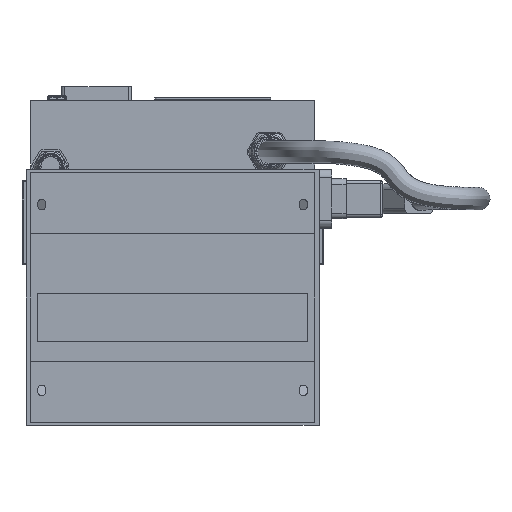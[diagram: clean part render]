
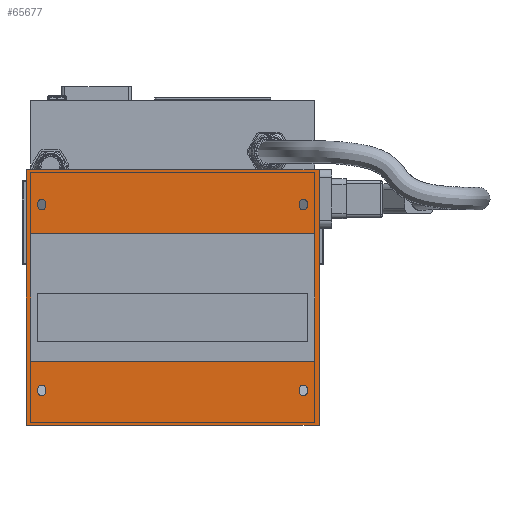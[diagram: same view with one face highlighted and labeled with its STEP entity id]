
A CAD part, front view. The second image highlights one B-rep face of the part: STEP entity #65677.
In plain terms, the highlighted planar face has unit normal (0, -1, 0).
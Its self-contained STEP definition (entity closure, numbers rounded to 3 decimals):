
#3708=FACE_BOUND('',#10157,.T.);
#3709=FACE_BOUND('',#10158,.T.);
#3710=FACE_BOUND('',#10159,.T.);
#3711=FACE_BOUND('',#10160,.T.);
#3712=FACE_BOUND('',#10161,.T.);
#4030=CIRCLE('',#69622,7.);
#4032=CIRCLE('',#69626,7.);
#4034=CIRCLE('',#69630,7.);
#4036=CIRCLE('',#69634,7.);
#4038=CIRCLE('',#69637,7.);
#4040=CIRCLE('',#69641,7.);
#4042=CIRCLE('',#69645,7.);
#4044=CIRCLE('',#69649,7.);
#6555=FACE_OUTER_BOUND('',#10156,.T.);
#10156=EDGE_LOOP('',(#44008,#44009,#44010,#44011));
#10157=EDGE_LOOP('',(#44012,#44013,#44014,#44015));
#10158=EDGE_LOOP('',(#44016,#44017,#44018,#44019));
#10159=EDGE_LOOP('',(#44020,#44021,#44022,#44023));
#10160=EDGE_LOOP('',(#44024,#44025,#44026,#44027));
#10161=EDGE_LOOP('',(#44028,#44029,#44030,#44031));
#14054=LINE('',#92843,#20965);
#14058=LINE('',#92855,#20969);
#14062=LINE('',#92867,#20973);
#14067=LINE('',#92880,#20978);
#14071=LINE('',#92897,#20982);
#14075=LINE('',#92907,#20986);
#14080=LINE('',#92922,#20991);
#14083=LINE('',#92931,#20994);
#14087=LINE('',#92941,#20998);
#14105=LINE('',#92977,#21016);
#14107=LINE('',#92981,#21018);
#14113=LINE('',#92992,#21024);
#14124=LINE('',#93016,#21035);
#14130=LINE('',#93027,#21041);
#14131=LINE('',#93030,#21042);
#14132=LINE('',#93031,#21043);
#20965=VECTOR('',#75072,10.);
#20969=VECTOR('',#75084,10.);
#20973=VECTOR('',#75096,10.);
#20978=VECTOR('',#75109,10.);
#20982=VECTOR('',#75127,10.);
#20986=VECTOR('',#75139,10.);
#20991=VECTOR('',#75152,10.);
#20994=VECTOR('',#75163,10.);
#20998=VECTOR('',#75169,10.);
#21016=VECTOR('',#75199,10.);
#21018=VECTOR('',#75203,10.);
#21024=VECTOR('',#75215,10.);
#21035=VECTOR('',#75236,10.);
#21041=VECTOR('',#75244,10.);
#21042=VECTOR('',#75247,10.);
#21043=VECTOR('',#75248,10.);
#27872=VERTEX_POINT('',#92840);
#27873=VERTEX_POINT('',#92842);
#27875=VERTEX_POINT('',#92848);
#27877=VERTEX_POINT('',#92854);
#27880=VERTEX_POINT('',#92864);
#27881=VERTEX_POINT('',#92866);
#27883=VERTEX_POINT('',#92872);
#27885=VERTEX_POINT('',#92878);
#27888=VERTEX_POINT('',#92888);
#27889=VERTEX_POINT('',#92890);
#27891=VERTEX_POINT('',#92896);
#27893=VERTEX_POINT('',#92902);
#27896=VERTEX_POINT('',#92912);
#27897=VERTEX_POINT('',#92914);
#27899=VERTEX_POINT('',#92920);
#27901=VERTEX_POINT('',#92926);
#27905=VERTEX_POINT('',#92938);
#27906=VERTEX_POINT('',#92940);
#27918=VERTEX_POINT('',#92976);
#27919=VERTEX_POINT('',#92980);
#27928=VERTEX_POINT('',#93013);
#27929=VERTEX_POINT('',#93015);
#27933=VERTEX_POINT('',#93025);
#27934=VERTEX_POINT('',#93029);
#34212=EDGE_CURVE('',#27873,#27872,#14054,.T.);
#34215=EDGE_CURVE('',#27875,#27873,#4030,.T.);
#34218=EDGE_CURVE('',#27877,#27875,#14058,.T.);
#34221=EDGE_CURVE('',#27872,#27877,#4032,.T.);
#34224=EDGE_CURVE('',#27881,#27880,#14062,.T.);
#34228=EDGE_CURVE('',#27880,#27883,#4034,.T.);
#34231=EDGE_CURVE('',#27883,#27885,#14067,.T.);
#34233=EDGE_CURVE('',#27885,#27881,#4036,.T.);
#34236=EDGE_CURVE('',#27889,#27888,#4038,.T.);
#34239=EDGE_CURVE('',#27891,#27889,#14071,.T.);
#34242=EDGE_CURVE('',#27893,#27891,#4040,.T.);
#34245=EDGE_CURVE('',#27888,#27893,#14075,.T.);
#34248=EDGE_CURVE('',#27897,#27896,#4042,.T.);
#34252=EDGE_CURVE('',#27896,#27899,#14080,.T.);
#34255=EDGE_CURVE('',#27899,#27901,#4044,.T.);
#34257=EDGE_CURVE('',#27901,#27897,#14083,.T.);
#34261=EDGE_CURVE('',#27906,#27905,#14087,.T.);
#34279=EDGE_CURVE('',#27918,#27906,#14105,.T.);
#34281=EDGE_CURVE('',#27905,#27919,#14107,.T.);
#34287=EDGE_CURVE('',#27919,#27918,#14113,.T.);
#34298=EDGE_CURVE('',#27928,#27929,#14124,.T.);
#34304=EDGE_CURVE('',#27928,#27933,#14130,.T.);
#34305=EDGE_CURVE('',#27934,#27933,#14131,.T.);
#34306=EDGE_CURVE('',#27929,#27934,#14132,.T.);
#44008=ORIENTED_EDGE('',*,*,#34304,.T.);
#44009=ORIENTED_EDGE('',*,*,#34305,.F.);
#44010=ORIENTED_EDGE('',*,*,#34306,.F.);
#44011=ORIENTED_EDGE('',*,*,#34298,.F.);
#44012=ORIENTED_EDGE('',*,*,#34212,.T.);
#44013=ORIENTED_EDGE('',*,*,#34221,.T.);
#44014=ORIENTED_EDGE('',*,*,#34218,.T.);
#44015=ORIENTED_EDGE('',*,*,#34215,.T.);
#44016=ORIENTED_EDGE('',*,*,#34224,.T.);
#44017=ORIENTED_EDGE('',*,*,#34228,.T.);
#44018=ORIENTED_EDGE('',*,*,#34231,.T.);
#44019=ORIENTED_EDGE('',*,*,#34233,.T.);
#44020=ORIENTED_EDGE('',*,*,#34236,.T.);
#44021=ORIENTED_EDGE('',*,*,#34245,.T.);
#44022=ORIENTED_EDGE('',*,*,#34242,.T.);
#44023=ORIENTED_EDGE('',*,*,#34239,.T.);
#44024=ORIENTED_EDGE('',*,*,#34248,.T.);
#44025=ORIENTED_EDGE('',*,*,#34252,.T.);
#44026=ORIENTED_EDGE('',*,*,#34255,.T.);
#44027=ORIENTED_EDGE('',*,*,#34257,.T.);
#44028=ORIENTED_EDGE('',*,*,#34261,.T.);
#44029=ORIENTED_EDGE('',*,*,#34281,.T.);
#44030=ORIENTED_EDGE('',*,*,#34287,.T.);
#44031=ORIENTED_EDGE('',*,*,#34279,.T.);
#63096=PLANE('',#69668);
#65677=ADVANCED_FACE('',(#6555,#3708,#3709,#3710,#3711,#3712),#63096,.T.);
#69622=AXIS2_PLACEMENT_3D('',#92849,#75078,#75079);
#69626=AXIS2_PLACEMENT_3D('',#92859,#75090,#75091);
#69630=AXIS2_PLACEMENT_3D('',#92874,#75103,#75104);
#69634=AXIS2_PLACEMENT_3D('',#92883,#75114,#75115);
#69637=AXIS2_PLACEMENT_3D('',#92891,#75121,#75122);
#69641=AXIS2_PLACEMENT_3D('',#92903,#75133,#75134);
#69645=AXIS2_PLACEMENT_3D('',#92915,#75145,#75146);
#69649=AXIS2_PLACEMENT_3D('',#92928,#75158,#75159);
#69668=AXIS2_PLACEMENT_3D('',#93028,#75245,#75246);
#75072=DIRECTION('',(0.,0.,1.));
#75078=DIRECTION('center_axis',(0.,1.,0.));
#75079=DIRECTION('ref_axis',(-1.,0.,0.));
#75084=DIRECTION('',(0.,0.,-1.));
#75090=DIRECTION('center_axis',(0.,1.,0.));
#75091=DIRECTION('ref_axis',(1.,0.,0.));
#75096=DIRECTION('',(0.,0.,-1.));
#75103=DIRECTION('center_axis',(0.,1.,0.));
#75104=DIRECTION('ref_axis',(-1.,0.,0.));
#75109=DIRECTION('',(0.,0.,1.));
#75114=DIRECTION('center_axis',(0.,1.,0.));
#75115=DIRECTION('ref_axis',(1.,0.,0.));
#75121=DIRECTION('center_axis',(0.,1.,0.));
#75122=DIRECTION('ref_axis',(-1.,0.,0.));
#75127=DIRECTION('',(0.,0.,-1.));
#75133=DIRECTION('center_axis',(0.,1.,0.));
#75134=DIRECTION('ref_axis',(1.,0.,0.));
#75139=DIRECTION('',(0.,0.,1.));
#75145=DIRECTION('center_axis',(0.,1.,0.));
#75146=DIRECTION('ref_axis',(-1.,0.,0.));
#75152=DIRECTION('',(0.,0.,1.));
#75158=DIRECTION('center_axis',(0.,1.,0.));
#75159=DIRECTION('ref_axis',(1.,0.,0.));
#75163=DIRECTION('',(0.,0.,-1.));
#75169=DIRECTION('',(0.,0.,1.));
#75199=DIRECTION('',(-1.,0.,0.));
#75203=DIRECTION('',(1.,0.,0.));
#75215=DIRECTION('',(0.,0.,-1.));
#75236=DIRECTION('',(0.,0.,1.));
#75244=DIRECTION('',(1.,0.,0.));
#75245=DIRECTION('center_axis',(0.,-1.,0.));
#75246=DIRECTION('ref_axis',(0.,0.,-1.));
#75247=DIRECTION('',(0.,0.,-1.));
#75248=DIRECTION('',(1.,0.,0.));
#92840=CARTESIAN_POINT('',(-237.,0.,-161.));
#92842=CARTESIAN_POINT('',(-237.,0.,-166.));
#92843=CARTESIAN_POINT('',(-237.,0.,29.5));
#92848=CARTESIAN_POINT('',(-223.,0.,-166.));
#92849=CARTESIAN_POINT('Origin',(-230.,0.,-166.));
#92854=CARTESIAN_POINT('',(-223.,0.,-161.));
#92855=CARTESIAN_POINT('',(-223.,0.,32.));
#92859=CARTESIAN_POINT('Origin',(-230.,0.,-161.));
#92864=CARTESIAN_POINT('',(237.,0.,-166.));
#92866=CARTESIAN_POINT('',(237.,0.,-161.));
#92867=CARTESIAN_POINT('',(237.,0.,32.));
#92872=CARTESIAN_POINT('',(223.,0.,-166.));
#92874=CARTESIAN_POINT('Origin',(230.,0.,-166.));
#92878=CARTESIAN_POINT('',(223.,0.,-161.));
#92880=CARTESIAN_POINT('',(223.,0.,29.5));
#92883=CARTESIAN_POINT('Origin',(230.,0.,-161.));
#92888=CARTESIAN_POINT('',(-237.,0.,161.));
#92890=CARTESIAN_POINT('',(-223.,0.,161.));
#92891=CARTESIAN_POINT('Origin',(-230.,0.,161.));
#92896=CARTESIAN_POINT('',(-223.,0.,166.));
#92897=CARTESIAN_POINT('',(-223.,0.,195.5));
#92902=CARTESIAN_POINT('',(-237.,0.,166.));
#92903=CARTESIAN_POINT('Origin',(-230.,0.,166.));
#92907=CARTESIAN_POINT('',(-237.,0.,193.));
#92912=CARTESIAN_POINT('',(223.,0.,161.));
#92914=CARTESIAN_POINT('',(237.,0.,161.));
#92915=CARTESIAN_POINT('Origin',(230.,0.,161.));
#92920=CARTESIAN_POINT('',(223.,0.,166.));
#92922=CARTESIAN_POINT('',(223.,0.,193.));
#92926=CARTESIAN_POINT('',(237.,0.,166.));
#92928=CARTESIAN_POINT('Origin',(230.,0.,166.));
#92931=CARTESIAN_POINT('',(237.,0.,195.5));
#92938=CARTESIAN_POINT('',(-250.,0.,112.5));
#92940=CARTESIAN_POINT('',(-250.,0.,-112.5));
#92941=CARTESIAN_POINT('',(-250.,0.,112.5));
#92976=CARTESIAN_POINT('',(250.,0.,-112.5));
#92977=CARTESIAN_POINT('',(0.,0.,-112.5));
#92980=CARTESIAN_POINT('',(250.,0.,112.5));
#92981=CARTESIAN_POINT('',(0.,0.,112.5));
#92992=CARTESIAN_POINT('',(250.,0.,112.5));
#93013=CARTESIAN_POINT('',(-257.5,0.,-225.));
#93015=CARTESIAN_POINT('',(-257.5,0.,225.));
#93016=CARTESIAN_POINT('',(-257.5,0.,225.));
#93025=CARTESIAN_POINT('',(257.5,0.,-225.));
#93027=CARTESIAN_POINT('',(0.,0.,-225.));
#93028=CARTESIAN_POINT('Origin',(0.,0.,225.));
#93029=CARTESIAN_POINT('',(257.5,0.,225.));
#93030=CARTESIAN_POINT('',(257.5,0.,225.));
#93031=CARTESIAN_POINT('',(0.,0.,225.));
